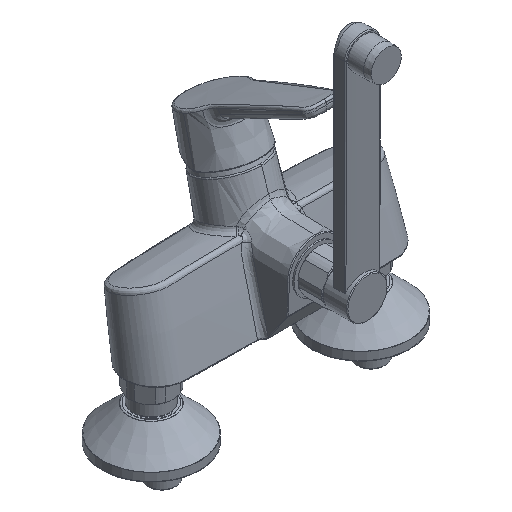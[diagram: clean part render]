
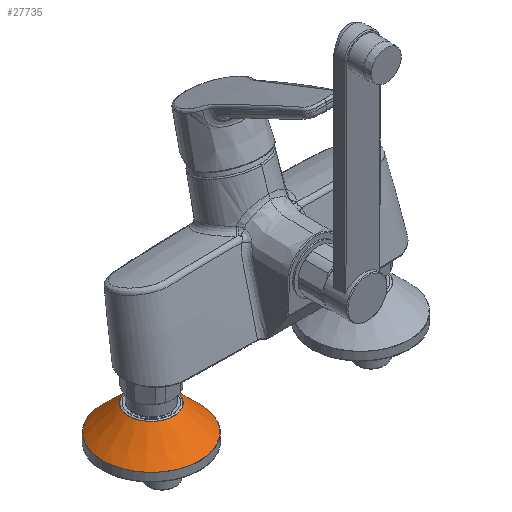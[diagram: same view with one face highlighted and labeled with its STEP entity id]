
A CAD part, isometric view. The second image highlights one B-rep face of the part: STEP entity #27735.
In plain terms, the highlighted conical face has half-angle 45.496 degrees and reference radius 35 mm.
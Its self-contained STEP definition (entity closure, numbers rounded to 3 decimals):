
#455 = FACE_BOUND ( 'NONE', #20055, .T. ) ;
#1758 = DIRECTION ( 'NONE',  ( -1., 0., 0. ) ) ;
#6354 = DIRECTION ( 'NONE',  ( 0., 0., -1. ) ) ;
#6630 = CARTESIAN_POINT ( 'NONE',  ( -110.143, -0.268, -27.796 ) ) ;
#7017 = AXIS2_PLACEMENT_3D ( 'NONE', #19066, #6354, #11427 ) ;
#9666 = DIRECTION ( 'NONE',  ( 0., 0., -1. ) ) ;
#11427 = DIRECTION ( 'NONE',  ( -1., 0., 0. ) ) ;
#11655 = VERTEX_POINT ( 'NONE', #19677 ) ;
#13291 = ORIENTED_EDGE ( 'NONE', *, *, #21623, .F. ) ;
#14136 = VERTEX_POINT ( 'NONE', #6630 ) ;
#16614 = ORIENTED_EDGE ( 'NONE', *, *, #32525, .T. ) ;
#17148 = DIRECTION ( 'NONE',  ( 0., 0., -1. ) ) ;
#18066 = EDGE_LOOP ( 'NONE', ( #13291 ) ) ;
#19066 = CARTESIAN_POINT ( 'NONE',  ( -75.143, -0.268, -27.796 ) ) ;
#19677 = CARTESIAN_POINT ( 'NONE',  ( -91.395, -0.268, -9.37 ) ) ;
#20055 = EDGE_LOOP ( 'NONE', ( #16614 ) ) ;
#20517 = CIRCLE ( 'NONE', #23302, 16.252 ) ;
#21623 = EDGE_CURVE ( 'NONE', #14136, #14136, #24805, .T. ) ;
#23302 = AXIS2_PLACEMENT_3D ( 'NONE', #31986, #17148, #1758 ) ;
#24397 = FACE_OUTER_BOUND ( 'NONE', #18066, .T. ) ;
#24805 = CIRCLE ( 'NONE', #30985, 35. ) ;
#24877 = CARTESIAN_POINT ( 'NONE',  ( -75.143, -0.268, -27.796 ) ) ;
#27326 = DIRECTION ( 'NONE',  ( -1., 0., 0. ) ) ;
#27735 = ADVANCED_FACE ( 'NONE', ( #455, #24397 ), #32462, .T. ) ;
#30985 = AXIS2_PLACEMENT_3D ( 'NONE', #24877, #9666, #27326 ) ;
#31986 = CARTESIAN_POINT ( 'NONE',  ( -75.143, -0.268, -9.37 ) ) ;
#32462 = CONICAL_SURFACE ( 'NONE', #7017, 35., 0.794 ) ;
#32525 = EDGE_CURVE ( 'NONE', #11655, #11655, #20517, .T. ) ;
